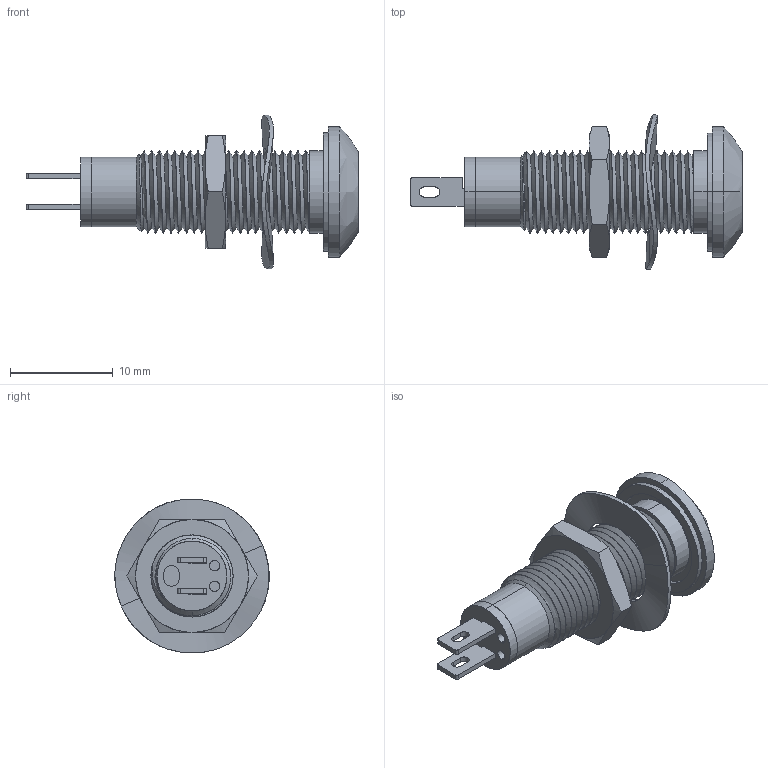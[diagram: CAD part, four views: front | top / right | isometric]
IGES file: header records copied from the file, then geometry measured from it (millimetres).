
Start section: SolidWorks IGES file using analytic representation for surfaces
Global section: file name: C:\Users\paulr\Desktop\524series.IGS; native system: SolidWorks 2013; preprocessor: SolidWorks 2013; author: paulr; date: 130913.125640; units: millimetre
Bounding box: 32.35 x 15.03 x 14.99 mm (x, y, z)
Surface area: 2706.4 mm2 (no closed solid volume)
Topology: 0 solids, 0 shells, 339 faces, 4431 edges, 4431 vertices
Faces by surface type: bspline 196, revolution 143
